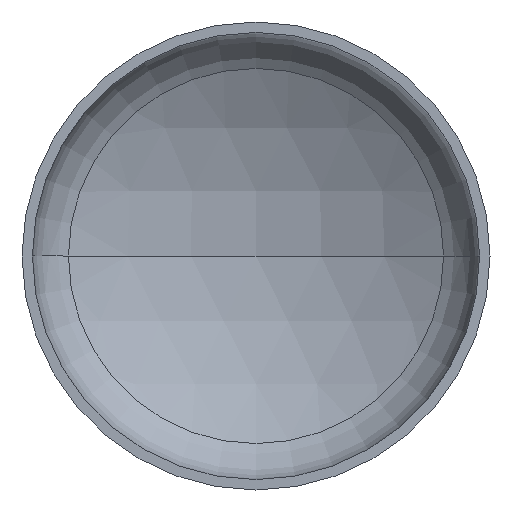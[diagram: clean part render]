
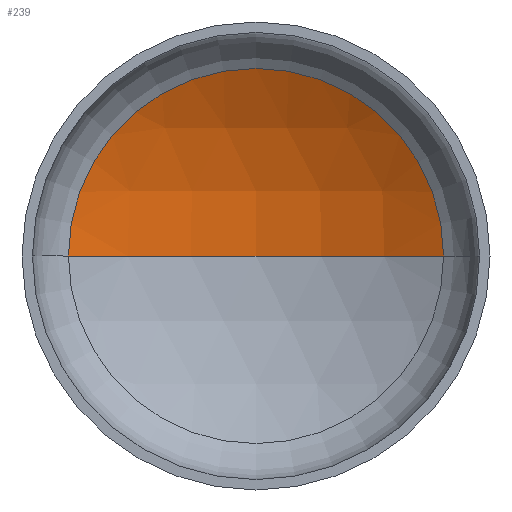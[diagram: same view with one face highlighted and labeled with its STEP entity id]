
A CAD part, front view. The second image highlights one B-rep face of the part: STEP entity #239.
In plain terms, the highlighted spherical face has radius 2880 mm.
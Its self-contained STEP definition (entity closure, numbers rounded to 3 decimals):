
#2 = VERTEX_POINT ( 'NONE', #235 ) ;
#5 = EDGE_CURVE ( 'NONE', #99, #13, #6, .T. ) ;
#6 = CIRCLE ( 'NONE', #89, 1443.097 ) ;
#9 = EDGE_CURVE ( 'NONE', #2, #99, #108, .T. ) ;
#12 = ORIENTED_EDGE ( 'NONE', *, *, #5, .T. ) ;
#13 = VERTEX_POINT ( 'NONE', #197 ) ;
#36 = ORIENTED_EDGE ( 'NONE', *, *, #9, .T. ) ;
#43 = EDGE_LOOP ( 'NONE', ( #284, #36, #12 ) ) ;
#45 = DIRECTION ( 'NONE',  ( 0., 0., -1. ) ) ;
#58 = EDGE_CURVE ( 'NONE', #2, #13, #256, .T. ) ;
#89 = AXIS2_PLACEMENT_3D ( 'NONE', #330, #200, #199 ) ;
#99 = VERTEX_POINT ( 'NONE', #398 ) ;
#108 = CIRCLE ( 'NONE', #122, 2880. ) ;
#122 = AXIS2_PLACEMENT_3D ( 'NONE', #190, #189, #185 ) ;
#144 = DIRECTION ( 'NONE',  ( 1., 0., 0. ) ) ;
#145 = DIRECTION ( 'NONE',  ( 0., 0., 1. ) ) ;
#146 = CARTESIAN_POINT ( 'NONE',  ( 0., -1892.064, 0. ) ) ;
#169 = SPHERICAL_SURFACE ( 'NONE', #365, 2880. ) ;
#185 = DIRECTION ( 'NONE',  ( -1., 0., 0. ) ) ;
#189 = DIRECTION ( 'NONE',  ( 0., 0., -1. ) ) ;
#190 = CARTESIAN_POINT ( 'NONE',  ( 0., -1892.064, 0. ) ) ;
#196 = AXIS2_PLACEMENT_3D ( 'NONE', #146, #145, #144 ) ;
#197 = CARTESIAN_POINT ( 'NONE',  ( -1443.097, 600.299, 0. ) ) ;
#199 = DIRECTION ( 'NONE',  ( 1., 0., 0. ) ) ;
#200 = DIRECTION ( 'NONE',  ( 0., -1., 0. ) ) ;
#235 = CARTESIAN_POINT ( 'NONE',  ( 0., 987.936, 0. ) ) ;
#238 = FACE_OUTER_BOUND ( 'NONE', #43, .T. ) ;
#239 = ADVANCED_FACE ( 'NONE', ( #238 ), #169, .F. ) ;
#256 = CIRCLE ( 'NONE', #196, 2880. ) ;
#284 = ORIENTED_EDGE ( 'NONE', *, *, #58, .F. ) ;
#302 = CARTESIAN_POINT ( 'NONE',  ( 0., -1892.064, 0. ) ) ;
#330 = CARTESIAN_POINT ( 'NONE',  ( 0., 600.299, 0. ) ) ;
#365 = AXIS2_PLACEMENT_3D ( 'NONE', #302, #45, #397 ) ;
#397 = DIRECTION ( 'NONE',  ( -1., 0., 0. ) ) ;
#398 = CARTESIAN_POINT ( 'NONE',  ( 1443.097, 600.299, 0. ) ) ;
